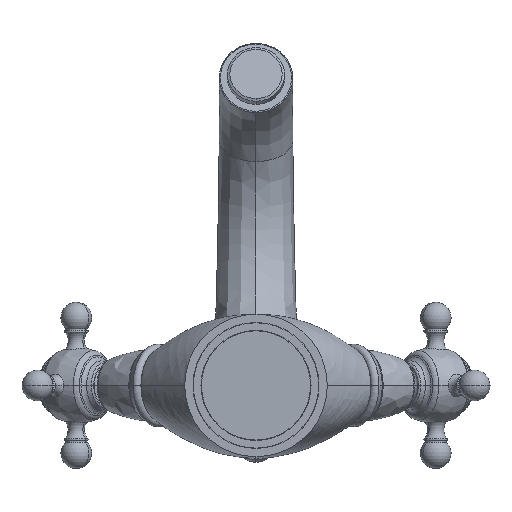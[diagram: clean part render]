
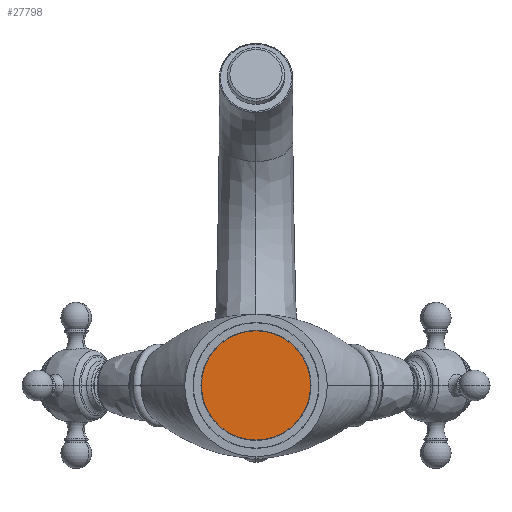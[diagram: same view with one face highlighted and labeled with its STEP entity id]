
A CAD part, front view. The second image highlights one B-rep face of the part: STEP entity #27798.
In plain terms, the highlighted planar face has unit normal (0, -1, 0).
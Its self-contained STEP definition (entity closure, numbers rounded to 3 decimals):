
#8514=CARTESIAN_POINT('',(0.,-7.5,0.));
#8515=DIRECTION('',(0.,1.,0.));
#8516=DIRECTION('',(0.,0.,-1.));
#8517=AXIS2_PLACEMENT_3D('',#8514,#8515,#8516);
#8519=CARTESIAN_POINT('',(0.,-7.5,0.));
#8520=DIRECTION('',(0.,1.,0.));
#8521=DIRECTION('',(0.,0.,1.));
#8522=AXIS2_PLACEMENT_3D('',#8519,#8520,#8521);
#11569=CARTESIAN_POINT('',(0.,-7.5,-23.));
#11570=CARTESIAN_POINT('',(0.,-7.5,23.));
#11571=VERTEX_POINT('',#11569);
#11572=VERTEX_POINT('',#11570);
#27787=CARTESIAN_POINT('',(0.,-7.5,0.));
#27788=DIRECTION('',(0.,1.,0.));
#27789=DIRECTION('',(0.,0.,-1.));
#27790=AXIS2_PLACEMENT_3D('',#27787,#27788,#27789);
#27791=PLANE('',#27790);
#27793=ORIENTED_EDGE('',*,*,#27792,.T.);
#27795=ORIENTED_EDGE('',*,*,#27794,.T.);
#27796=EDGE_LOOP('',(#27793,#27795));
#27797=FACE_OUTER_BOUND('',#27796,.F.);
#27798=ADVANCED_FACE('',(#27797),#27791,.F.);
#8518=CIRCLE('',#8517,23.);
#8523=CIRCLE('',#8522,23.);
#27792=EDGE_CURVE('',#11571,#11572,#8518,.T.);
#27794=EDGE_CURVE('',#11572,#11571,#8523,.T.);
